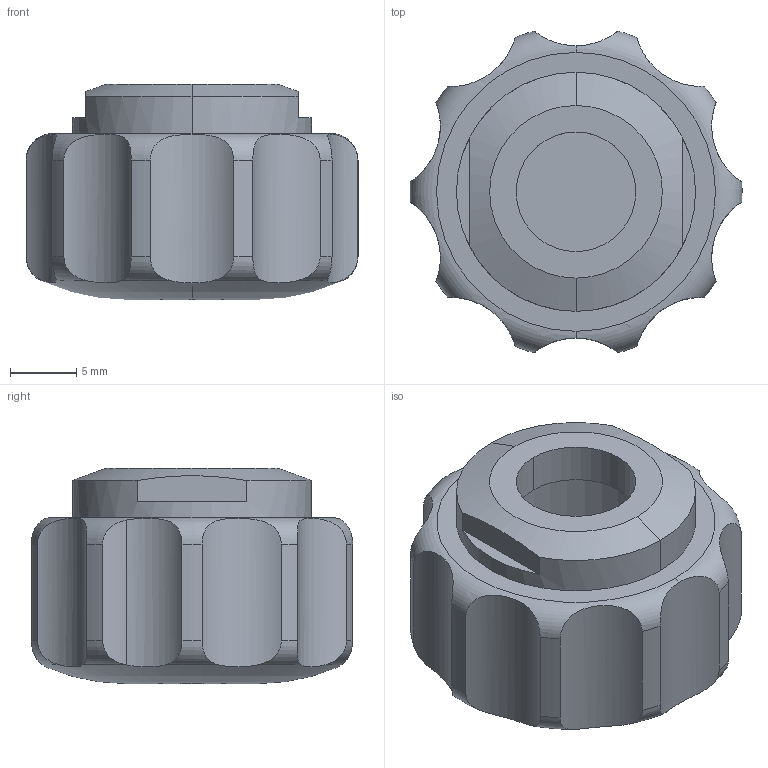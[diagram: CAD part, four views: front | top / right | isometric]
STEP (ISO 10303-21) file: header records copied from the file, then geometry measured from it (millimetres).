
FILE_DESCRIPTION (( 'STEP AP203' ), '1' );
FILE_NAME ('Easyknob Dummy M8.step', '2015-01-22T09:39:52', ( 'ThinkStation' ), ( '' ), 'SwSTEP 2.0', 'SolidWorks 2015', '' );
FILE_SCHEMA (( 'CONFIG_CONTROL_DESIGN' ));
Length unit declared in the file: millimetre
Products named in the file (1): Easyknob Dummy M8
Bounding box: 24.99 x 24.2 x 16.2 mm (x, y, z)
Volume: 3823.5 mm3; surface area: 2729 mm2
Topology: 1 solids, 1 shells, 52 faces, 139 edges, 92 vertices
Faces by surface type: cylinder 27, torus 14, plane 9, cone 2
Entity records: 2324 total; most frequent: CARTESIAN_POINT 984, ORIENTED_EDGE 278, DIRECTION 253, EDGE_CURVE 139, AXIS2_PLACEMENT_3D 109, VERTEX_POINT 92, CIRCLE 56, EDGE_LOOP 55
